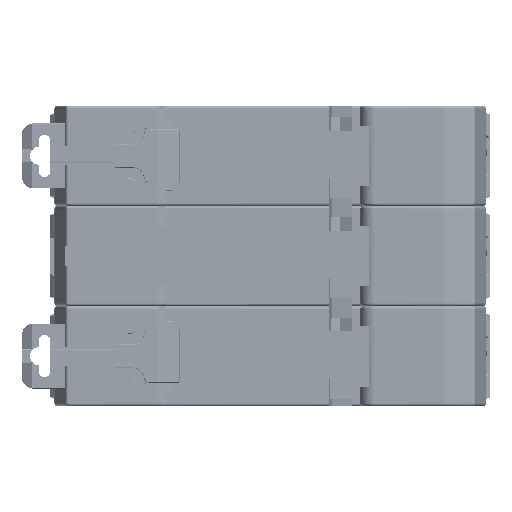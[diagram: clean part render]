
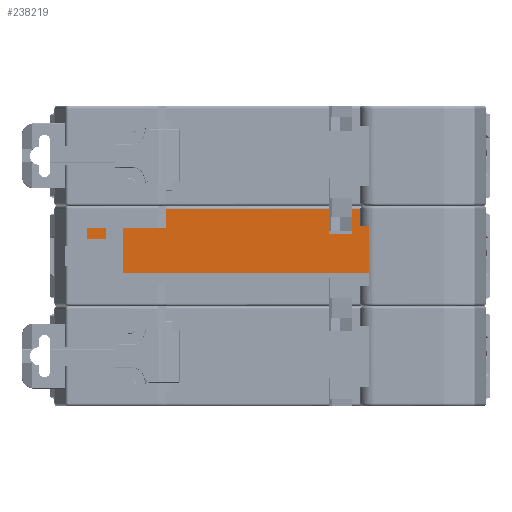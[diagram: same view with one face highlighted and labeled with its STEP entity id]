
A CAD part, front view. The second image highlights one B-rep face of the part: STEP entity #238219.
In plain terms, the highlighted planar face has unit normal (0, -1, 0).
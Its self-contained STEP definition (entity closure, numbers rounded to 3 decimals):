
#20569=DIRECTION('',(-1.,0.,0.));
#20570=VECTOR('',#20569,43.72);
#20571=CARTESIAN_POINT('',(17.5,-46.,23.7));
#20572=LINE('',#20571,#20570);
#20712=DIRECTION('',(1.,0.,0.));
#20713=VECTOR('',#20712,2.22);
#20714=CARTESIAN_POINT('',(-32.72,-46.,32.6));
#20715=LINE('',#20714,#20713);
#68253=DIRECTION('',(-1.,0.,0.));
#68254=VECTOR('',#68253,2.4);
#68255=CARTESIAN_POINT('',(-19.65,-46.,33.1));
#68256=LINE('',#68255,#68254);
#68257=DIRECTION('',(1.,0.,0.));
#68258=VECTOR('',#68257,28.932);
#68259=CARTESIAN_POINT('',(-18.5,-46.,35.1));
#68260=LINE('',#68259,#68258);
#68261=DIRECTION('',(0.,0.,-1.));
#68262=VECTOR('',#68261,4.5);
#68263=CARTESIAN_POINT('',(10.432,-46.,
35.1));
#68264=LINE('',#68263,#68262);
#68265=DIRECTION('',(1.,0.,0.));
#68266=VECTOR('',#68265,4.062);
#68267=CARTESIAN_POINT('',(10.432,-46.,
30.6));
#68268=LINE('',#68267,#68266);
#68269=DIRECTION('',(0.,0.,-1.));
#68270=VECTOR('',#68269,4.5);
#68271=CARTESIAN_POINT('',(14.494,-46.,
35.1));
#68272=LINE('',#68271,#68270);
#68273=DIRECTION('',(1.,0.,0.));
#68274=VECTOR('',#68273,3.006);
#68275=CARTESIAN_POINT('',(14.494,-46.,
35.1));
#68276=LINE('',#68275,#68274);
#68277=DIRECTION('',(0.,0.,-1.));
#68278=VECTOR('',#68277,11.4);
#68279=CARTESIAN_POINT('',(17.5,-46.,35.1));
#68280=LINE('',#68279,#68278);
#68281=DIRECTION('',(0.,0.,1.));
#68282=VECTOR('',#68281,8.9);
#68283=CARTESIAN_POINT('',(-26.22,-46.,23.7));
#68284=LINE('',#68283,#68282);
#68285=DIRECTION('',(1.,0.,0.));
#68286=VECTOR('',#68285,3.5);
#68287=CARTESIAN_POINT('',(-32.72,-46.,29.75));
#68288=LINE('',#68287,#68286);
#68289=DIRECTION('',(0.,0.,1.));
#68290=VECTOR('',#68289,2.85);
#68291=CARTESIAN_POINT('',(-32.72,-46.,29.75));
#68292=LINE('',#68291,#68290);
#68293=DIRECTION('',(-0.819,0.,-0.574));
#68294=VECTOR('',#68293,3.345);
#68295=CARTESIAN_POINT('',(-27.76,-46.,34.519));
#68296=LINE('',#68295,#68294);
#68297=DIRECTION('',(-0.833,0.,0.553));
#68298=VECTOR('',#68297,2.979);
#68299=CARTESIAN_POINT('',(-25.279,-46.,
32.87));
#68300=LINE('',#68299,#68298);
#68301=DIRECTION('',(-1.,0.,0.));
#68302=VECTOR('',#68301,0.2);
#68303=CARTESIAN_POINT('',(-25.079,-46.,
32.87));
#68304=LINE('',#68303,#68302);
#68305=DIRECTION('',(-0.819,0.,-0.574));
#68306=VECTOR('',#68305,2.818);
#68307=CARTESIAN_POINT('',(-22.77,-46.,34.487));
#68308=LINE('',#68307,#68306);
#68309=DIRECTION('',(-0.921,0.,0.391));
#68310=VECTOR('',#68309,0.782);
#68311=CARTESIAN_POINT('',(-22.05,-46.,34.181));
#68312=LINE('',#68311,#68310);
#68313=DIRECTION('',(0.,0.,1.));
#68314=VECTOR('',#68313,1.081);
#68315=CARTESIAN_POINT('',(-22.05,-46.,33.1));
#68316=LINE('',#68315,#68314);
#68333=DIRECTION('',(-0.707,0.,
-0.707));
#68334=VECTOR('',#68333,1.626);
#68335=CARTESIAN_POINT('',(-18.5,-46.,34.25));
#68336=LINE('',#68335,#68334);
#68622=DIRECTION('',(0.,0.,-1.));
#68623=VECTOR('',#68622,0.85);
#68624=CARTESIAN_POINT('',(-18.5,-46.,35.1));
#68625=LINE('',#68624,#68623);
#68646=CARTESIAN_POINT('',(14.494,-46.,
35.1));
#68832=DIRECTION('',(-1.,0.,0.));
#68833=VECTOR('',#68832,3.);
#68834=CARTESIAN_POINT('',(-26.22,-46.,32.6));
#68835=LINE('',#68834,#68833);
#68852=DIRECTION('',(0.,0.,1.));
#68853=VECTOR('',#68852,2.85);
#68854=CARTESIAN_POINT('',(-29.22,-46.,29.75));
#68855=LINE('',#68854,#68853);
#120527=CARTESIAN_POINT('',(17.5,-46.,23.7));
#120528=CARTESIAN_POINT('',(-26.22,-46.,23.7));
#120529=VERTEX_POINT('',#120527);
#120530=VERTEX_POINT('',#120528);
#120825=CARTESIAN_POINT('',(-32.72,-46.,29.75));
#120826=CARTESIAN_POINT('',(-29.22,-46.,29.75));
#120827=VERTEX_POINT('',#120825);
#120828=VERTEX_POINT('',#120826);
#120829=CARTESIAN_POINT('',(-32.72,-46.,32.6));
#120830=VERTEX_POINT('',#120829);
#120831=CARTESIAN_POINT('',(-30.5,-46.,32.6));
#120832=VERTEX_POINT('',#120831);
#120833=CARTESIAN_POINT('',(-26.22,-46.,32.6));
#120834=VERTEX_POINT('',#120833);
#120835=CARTESIAN_POINT('',(-29.22,-46.,32.6));
#120836=VERTEX_POINT('',#120835);
#120837=CARTESIAN_POINT('',(-22.77,-46.,34.487));
#120838=CARTESIAN_POINT('',(-25.079,-46.,
32.87));
#120839=VERTEX_POINT('',#120837);
#120840=VERTEX_POINT('',#120838);
#120841=CARTESIAN_POINT('',(-25.279,-46.,
32.87));
#120842=VERTEX_POINT('',#120841);
#120843=CARTESIAN_POINT('',(-27.76,-46.,34.519));
#120844=VERTEX_POINT('',#120843);
#121063=CARTESIAN_POINT('',(10.432,-46.,
30.6));
#121064=CARTESIAN_POINT('',(14.494,-46.,
30.6));
#121065=VERTEX_POINT('',#121063);
#121066=VERTEX_POINT('',#121064);
#121359=CARTESIAN_POINT('',(-18.5,-46.,35.1));
#121360=CARTESIAN_POINT('',(10.432,-46.,
35.1));
#121361=VERTEX_POINT('',#121359);
#121362=VERTEX_POINT('',#121360);
#121369=VERTEX_POINT('',#68646);
#121371=CARTESIAN_POINT('',(17.5,-46.,35.1));
#121372=VERTEX_POINT('',#121371);
#121446=CARTESIAN_POINT('',(-19.65,-46.,33.1));
#121448=VERTEX_POINT('',#121446);
#121451=CARTESIAN_POINT('',(-18.5,-46.,34.25));
#121452=VERTEX_POINT('',#121451);
#121453=CARTESIAN_POINT('',(-22.05,-46.,33.1));
#121454=VERTEX_POINT('',#121453);
#121672=CARTESIAN_POINT('',(-22.05,-46.,34.181));
#121673=VERTEX_POINT('',#121672);
#238175=CARTESIAN_POINT('',(17.5,-46.,35.6));
#238176=DIRECTION('',(0.,-1.,0.));
#238177=DIRECTION('',(-1.,0.,0.));
#238178=AXIS2_PLACEMENT_3D('',#238175,#238176,#238177);
#238179=PLANE('',#238178);
#238181=ORIENTED_EDGE('',*,*,#238180,.F.);
#238183=ORIENTED_EDGE('',*,*,#238182,.F.);
#238185=ORIENTED_EDGE('',*,*,#238184,.F.);
#238186=ORIENTED_EDGE('',*,*,#157896,.T.);
#238187=ORIENTED_EDGE('',*,*,#157921,.T.);
#238189=ORIENTED_EDGE('',*,*,#238188,.T.);
#238191=ORIENTED_EDGE('',*,*,#238190,.F.);
#238192=ORIENTED_EDGE('',*,*,#158031,.T.);
#238193=ORIENTED_EDGE('',*,*,#238079,.T.);
#238194=ORIENTED_EDGE('',*,*,#173416,.T.);
#238195=ORIENTED_EDGE('',*,*,#173452,.T.);
#238197=ORIENTED_EDGE('',*,*,#238196,.T.);
#238199=ORIENTED_EDGE('',*,*,#238198,.F.);
#238201=ORIENTED_EDGE('',*,*,#238200,.F.);
#238203=ORIENTED_EDGE('',*,*,#238202,.T.);
#238204=ORIENTED_EDGE('',*,*,#173580,.T.);
#238206=ORIENTED_EDGE('',*,*,#238205,.F.);
#238208=ORIENTED_EDGE('',*,*,#238207,.F.);
#238210=ORIENTED_EDGE('',*,*,#238209,.F.);
#238212=ORIENTED_EDGE('',*,*,#238211,.F.);
#238214=ORIENTED_EDGE('',*,*,#238213,.F.);
#238216=ORIENTED_EDGE('',*,*,#238215,.F.);
#238217=EDGE_LOOP('',(#238181,#238183,#238185,#238186,#238187,#238189,#238191,
#238192,#238193,#238194,#238195,#238197,#238199,#238201,#238203,#238204,#238206,
#238208,#238210,#238212,#238214,#238216));
#238218=FACE_OUTER_BOUND('',#238217,.F.);
#238219=ADVANCED_FACE('',(#238218),#238179,.T.);
#157896=EDGE_CURVE('',#121361,#121362,#68260,.T.);
#157921=EDGE_CURVE('',#121362,#121065,#68264,.T.);
#158031=EDGE_CURVE('',#121369,#121372,#68276,.T.);
#173416=EDGE_CURVE('',#120529,#120530,#20572,.T.);
#173452=EDGE_CURVE('',#120530,#120834,#68284,.T.);
#173580=EDGE_CURVE('',#120830,#120832,#20715,.T.);
#238079=EDGE_CURVE('',#121372,#120529,#68280,.T.);
#238180=EDGE_CURVE('',#121448,#121454,#68256,.T.);
#238182=EDGE_CURVE('',#121452,#121448,#68336,.T.);
#238184=EDGE_CURVE('',#121361,#121452,#68625,.T.);
#238188=EDGE_CURVE('',#121065,#121066,#68268,.T.);
#238190=EDGE_CURVE('',#121369,#121066,#68272,.T.);
#238196=EDGE_CURVE('',#120834,#120836,#68835,.T.);
#238198=EDGE_CURVE('',#120828,#120836,#68855,.T.);
#238200=EDGE_CURVE('',#120827,#120828,#68288,.T.);
#238202=EDGE_CURVE('',#120827,#120830,#68292,.T.);
#238205=EDGE_CURVE('',#120844,#120832,#68296,.T.);
#238207=EDGE_CURVE('',#120842,#120844,#68300,.T.);
#238209=EDGE_CURVE('',#120840,#120842,#68304,.T.);
#238211=EDGE_CURVE('',#120839,#120840,#68308,.T.);
#238213=EDGE_CURVE('',#121673,#120839,#68312,.T.);
#238215=EDGE_CURVE('',#121454,#121673,#68316,.T.);
